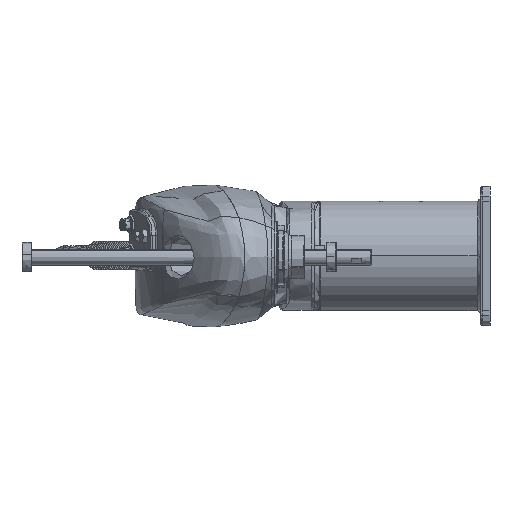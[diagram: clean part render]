
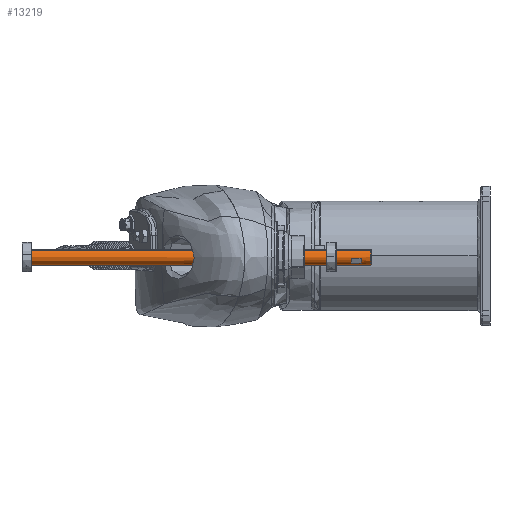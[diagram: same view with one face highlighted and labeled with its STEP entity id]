
A CAD part, left-side view. The second image highlights one B-rep face of the part: STEP entity #13219.
In plain terms, the highlighted cylindrical face has radius 8 mm (diameter 16 mm), a partial arc.
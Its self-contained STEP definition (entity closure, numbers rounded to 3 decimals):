
#1202 = CARTESIAN_POINT ( 'NONE',  ( -8., 0., -99.5 ) ) ;
#9708 = DIRECTION ( 'NONE',  ( 0., 0., -1. ) ) ;
#10299 = EDGE_CURVE ( 'NONE', #71612, #102645, #24461, .T. ) ;
#10428 = EDGE_CURVE ( 'NONE', #10885, #94213, #53066, .T. ) ;
#10885 = VERTEX_POINT ( 'NONE', #41785 ) ;
#13219 = ADVANCED_FACE ( 'NONE', ( #63124, #21411 ), #60536, .T. ) ;
#13480 = CARTESIAN_POINT ( 'NONE',  ( 8., 0., 300. ) ) ;
#14773 = EDGE_CURVE ( 'NONE', #41595, #105550, #72259, .T. ) ;
#18520 = ORIENTED_EDGE ( 'NONE', *, *, #102816, .T. ) ;
#18679 = VECTOR ( 'NONE', #68810, 1000. ) ;
#19988 = CARTESIAN_POINT ( 'NONE',  ( 0., 0., -99.5 ) ) ;
#21411 = FACE_BOUND ( 'NONE', #95358, .T. ) ;
#21797 = CARTESIAN_POINT ( 'NONE',  ( -2.784, -7.5, 230. ) ) ;
#22431 = DIRECTION ( 'NONE',  ( 0., 0., -1. ) ) ;
#22738 = ORIENTED_EDGE ( 'NONE', *, *, #77987, .T. ) ;
#24461 = CIRCLE ( 'NONE', #86931, 8. ) ;
#24884 = VERTEX_POINT ( 'NONE', #21797 ) ;
#26755 = CARTESIAN_POINT ( 'NONE',  ( -2.784, -7.5, 300. ) ) ;
#28369 = DIRECTION ( 'NONE',  ( -1., 0., 0. ) ) ;
#28802 = CIRCLE ( 'NONE', #56730, 8. ) ;
#29231 = DIRECTION ( 'NONE',  ( 0., 0., -1. ) ) ;
#32566 = AXIS2_PLACEMENT_3D ( 'NONE', #19988, #78328, #28369 ) ;
#33198 = CIRCLE ( 'NONE', #94970, 8. ) ;
#34439 = CARTESIAN_POINT ( 'NONE',  ( -2.784, -7.5, 240. ) ) ;
#35356 = ORIENTED_EDGE ( 'NONE', *, *, #43896, .T. ) ;
#35605 = DIRECTION ( 'NONE',  ( -1., 0., 0. ) ) ;
#36229 = VERTEX_POINT ( 'NONE', #93894 ) ;
#36998 = DIRECTION ( 'NONE',  ( 0., 0., 1. ) ) ;
#38014 = EDGE_CURVE ( 'NONE', #105550, #36229, #107462, .T. ) ;
#41111 = CARTESIAN_POINT ( 'NONE',  ( 0., 0., -99.5 ) ) ;
#41595 = VERTEX_POINT ( 'NONE', #34439 ) ;
#41785 = CARTESIAN_POINT ( 'NONE',  ( 8., 0., 249.5 ) ) ;
#41941 = EDGE_CURVE ( 'NONE', #36229, #24884, #70015, .T. ) ;
#43419 = CIRCLE ( 'NONE', #32566, 8. ) ;
#43896 = EDGE_CURVE ( 'NONE', #10885, #71612, #33198, .T. ) ;
#45258 = CARTESIAN_POINT ( 'NONE',  ( 0., 0., 249.5 ) ) ;
#46755 = VERTEX_POINT ( 'NONE', #62497 ) ;
#47178 = EDGE_CURVE ( 'NONE', #66714, #46755, #28802, .T. ) ;
#49313 = AXIS2_PLACEMENT_3D ( 'NONE', #60781, #9708, #35605 ) ;
#49499 = DIRECTION ( 'NONE',  ( -1., 0., 0. ) ) ;
#51643 = VECTOR ( 'NONE', #102252, 1000. ) ;
#53066 = LINE ( 'NONE', #13480, #72649 ) ;
#53647 = DIRECTION ( 'NONE',  ( -1., 0., 0. ) ) ;
#56730 = AXIS2_PLACEMENT_3D ( 'NONE', #41111, #99543, #49499 ) ;
#60337 = EDGE_CURVE ( 'NONE', #102645, #66714, #73836, .T. ) ;
#60536 = CYLINDRICAL_SURFACE ( 'NONE', #49313, 8. ) ;
#60781 = CARTESIAN_POINT ( 'NONE',  ( 0., 0., 300. ) ) ;
#62497 = CARTESIAN_POINT ( 'NONE',  ( 0., -8., -99.5 ) ) ;
#63124 = FACE_OUTER_BOUND ( 'NONE', #66234, .T. ) ;
#63445 = DIRECTION ( 'NONE',  ( 0., 0., -1. ) ) ;
#63774 = ORIENTED_EDGE ( 'NONE', *, *, #14773, .T. ) ;
#64666 = ORIENTED_EDGE ( 'NONE', *, *, #60337, .T. ) ;
#64796 = LINE ( 'NONE', #26755, #106646 ) ;
#66234 = EDGE_LOOP ( 'NONE', ( #72837, #35356, #68362, #64666, #90072, #22738 ) ) ;
#66714 = VERTEX_POINT ( 'NONE', #1202 ) ;
#68362 = ORIENTED_EDGE ( 'NONE', *, *, #10299, .T. ) ;
#68810 = DIRECTION ( 'NONE',  ( 0., 0., -1. ) ) ;
#68994 = AXIS2_PLACEMENT_3D ( 'NONE', #87032, #36998, #95451 ) ;
#70015 = CIRCLE ( 'NONE', #85043, 8. ) ;
#71253 = CARTESIAN_POINT ( 'NONE',  ( 0., -8., 249.5 ) ) ;
#71612 = VERTEX_POINT ( 'NONE', #71253 ) ;
#72259 = CIRCLE ( 'NONE', #68994, 8. ) ;
#72362 = CARTESIAN_POINT ( 'NONE',  ( -8., 0., 249.5 ) ) ;
#72382 = CARTESIAN_POINT ( 'NONE',  ( 0., 0., 249.5 ) ) ;
#72649 = VECTOR ( 'NONE', #63445, 1000. ) ;
#72837 = ORIENTED_EDGE ( 'NONE', *, *, #10428, .F. ) ;
#73836 = LINE ( 'NONE', #77027, #51643 ) ;
#77027 = CARTESIAN_POINT ( 'NONE',  ( -8., 0., 300. ) ) ;
#77987 = EDGE_CURVE ( 'NONE', #46755, #94213, #43419, .T. ) ;
#78328 = DIRECTION ( 'NONE',  ( 0., 0., 1. ) ) ;
#79207 = CARTESIAN_POINT ( 'NONE',  ( 0., 0., 230. ) ) ;
#79775 = CARTESIAN_POINT ( 'NONE',  ( 8., 0., -99.5 ) ) ;
#80782 = DIRECTION ( 'NONE',  ( -1., 0., 0. ) ) ;
#82666 = ORIENTED_EDGE ( 'NONE', *, *, #41941, .T. ) ;
#84588 = CARTESIAN_POINT ( 'NONE',  ( 2.784, -7.5, 240. ) ) ;
#85043 = AXIS2_PLACEMENT_3D ( 'NONE', #79207, #29231, #87596 ) ;
#85123 = DIRECTION ( 'NONE',  ( 0., 0., 1. ) ) ;
#86931 = AXIS2_PLACEMENT_3D ( 'NONE', #45258, #103682, #53647 ) ;
#87032 = CARTESIAN_POINT ( 'NONE',  ( 0., 0., 240. ) ) ;
#87596 = DIRECTION ( 'NONE',  ( -1., 0., 0. ) ) ;
#90072 = ORIENTED_EDGE ( 'NONE', *, *, #47178, .T. ) ;
#93894 = CARTESIAN_POINT ( 'NONE',  ( 2.784, -7.5, 230. ) ) ;
#94213 = VERTEX_POINT ( 'NONE', #79775 ) ;
#94970 = AXIS2_PLACEMENT_3D ( 'NONE', #72382, #22431, #80782 ) ;
#95358 = EDGE_LOOP ( 'NONE', ( #82666, #18520, #63774, #102335 ) ) ;
#95451 = DIRECTION ( 'NONE',  ( -1., 0., 0. ) ) ;
#99543 = DIRECTION ( 'NONE',  ( 0., 0., 1. ) ) ;
#102083 = CARTESIAN_POINT ( 'NONE',  ( 2.784, -7.5, 300. ) ) ;
#102252 = DIRECTION ( 'NONE',  ( 0., 0., -1. ) ) ;
#102335 = ORIENTED_EDGE ( 'NONE', *, *, #38014, .T. ) ;
#102645 = VERTEX_POINT ( 'NONE', #72362 ) ;
#102816 = EDGE_CURVE ( 'NONE', #24884, #41595, #64796, .T. ) ;
#103682 = DIRECTION ( 'NONE',  ( 0., 0., -1. ) ) ;
#105550 = VERTEX_POINT ( 'NONE', #84588 ) ;
#106646 = VECTOR ( 'NONE', #85123, 1000. ) ;
#107462 = LINE ( 'NONE', #102083, #18679 ) ;
